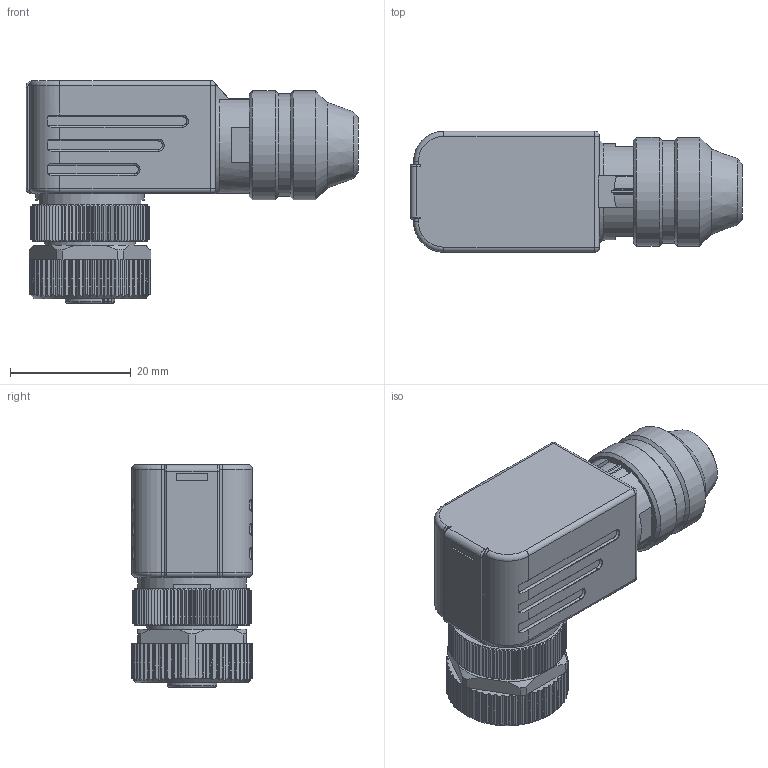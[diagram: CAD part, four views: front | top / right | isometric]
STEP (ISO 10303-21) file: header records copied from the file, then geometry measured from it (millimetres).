
FILE_DESCRIPTION(/* description */ (''),/* implementation_level */ '2;1');
FILE_NAME(/* name */ '99_1430_824_04_001_01.stp',/* time_stamp */ '2013-09-06T12:47:36+02:00',/* author */ (''),/* organization */ (''),/* preprocessor_version */ 'ST-DEVELOPER v14',/* originating_system */ 'SIEMENS PLM Software NX 8.0',/* authorisation */ '');
FILE_SCHEMA (('AUTOMOTIVE_DESIGN { 1 0 10303 214 3 1 1 1 }'));
Length unit declared in the file: millimetre
Products named in the file (1): kbor0E4C830Doxqi
Bounding box: 55 x 20.16 x 36.9 mm (x, y, z)
Volume: 20814.7 mm3; surface area: 6532.3 mm2
Topology: 1 solids, 1 shells, 952 faces, 2354 edges, 1408 vertices
Faces by surface type: plane 421, cylinder 272, cone 233, torus 18, sphere 6, bspline 2
Full cylindrical faces by diameter (mm): 1.05 x4, 1.1 x4, 1.2 x1, 8.2 x1, 10.917 x1, 15 x1, 17 x1, 18 x3
Entity records: 28374 total; most frequent: CARTESIAN_POINT 7064, ORIENTED_EDGE 4564, DIRECTION 4286, EDGE_CURVE 2282, AXIS2_PLACEMENT_3D 1705, VERTEX_POINT 1387, EDGE_LOOP 995, ADVANCED_FACE 948
